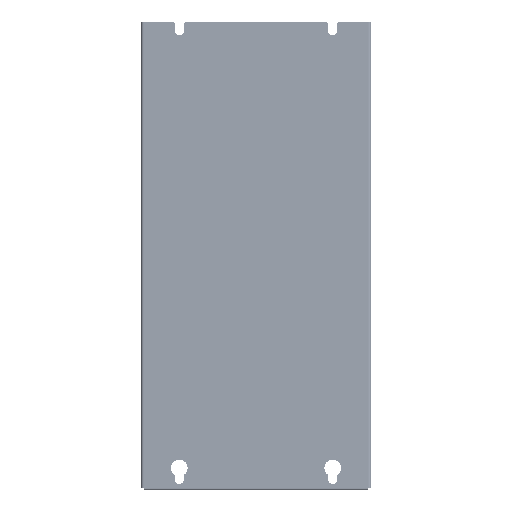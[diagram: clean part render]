
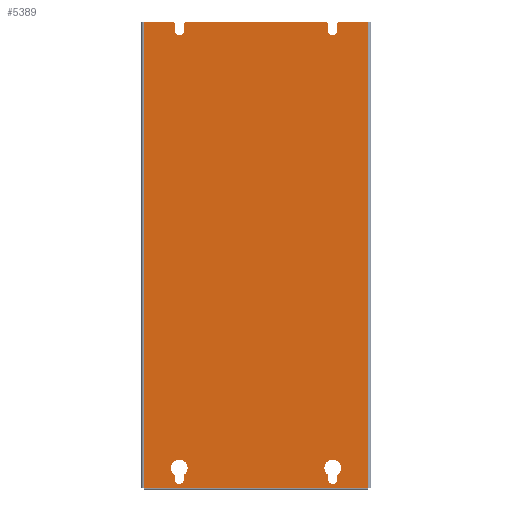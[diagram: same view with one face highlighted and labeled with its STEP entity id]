
A CAD part, front view. The second image highlights one B-rep face of the part: STEP entity #5389.
In plain terms, the highlighted planar face has unit normal (0, -1, 0).
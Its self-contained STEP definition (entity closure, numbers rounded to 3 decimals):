
#5389=ADVANCED_FACE('',(#95814,#95816,#95818),#95820,.T.);
#95814=FACE_BOUND('',#95815,.T.);
#95815=EDGE_LOOP('',(#222816,#222817,#222818,#222819,#222820,#222821,#222822,#222823,
#222824,#222825,#222826,#222827,#222828,#222829,#222830,#222831));
#95816=FACE_BOUND('',#95817,.T.);
#95817=EDGE_LOOP('',(#222832,#222833,#222834,#222835));
#95818=FACE_BOUND('',#95819,.T.);
#95819=EDGE_LOOP('',(#222836,#222837,#222838,#222839));
#95820=PLANE('',#95821);
#95821=AXIS2_PLACEMENT_3D('',#95822,#95823,#95824);
#95822=CARTESIAN_POINT('',(-90.,0.,-182.5));
#95823=DIRECTION('',(0.,-1.,0.));
#95824=DIRECTION('',(1.,0.,0.));
#222816=ORIENTED_EDGE('',*,*,#275597,.F.);
#222817=ORIENTED_EDGE('',*,*,#275598,.F.);
#222818=ORIENTED_EDGE('',*,*,#275599,.T.);
#222819=ORIENTED_EDGE('',*,*,#275385,.T.);
#222820=ORIENTED_EDGE('',*,*,#275600,.F.);
#222821=ORIENTED_EDGE('',*,*,#275601,.T.);
#222822=ORIENTED_EDGE('',*,*,#275602,.T.);
#222823=ORIENTED_EDGE('',*,*,#275603,.T.);
#222824=ORIENTED_EDGE('',*,*,#275604,.F.);
#222825=ORIENTED_EDGE('',*,*,#275605,.T.);
#222826=ORIENTED_EDGE('',*,*,#275606,.F.);
#222827=ORIENTED_EDGE('',*,*,#275607,.T.);
#222828=ORIENTED_EDGE('',*,*,#275608,.T.);
#222829=ORIENTED_EDGE('',*,*,#275609,.T.);
#222830=ORIENTED_EDGE('',*,*,#275610,.F.);
#222831=ORIENTED_EDGE('',*,*,#275611,.T.);
#222832=ORIENTED_EDGE('',*,*,#275612,.T.);
#222833=ORIENTED_EDGE('',*,*,#275613,.F.);
#222834=ORIENTED_EDGE('',*,*,#275614,.T.);
#222835=ORIENTED_EDGE('',*,*,#275596,.F.);
#222836=ORIENTED_EDGE('',*,*,#275615,.F.);
#222837=ORIENTED_EDGE('',*,*,#275616,.T.);
#222838=ORIENTED_EDGE('',*,*,#275617,.F.);
#222839=ORIENTED_EDGE('',*,*,#275618,.T.);
#275385=EDGE_CURVE('',#301497,#301494,#301498,.T.);
#275596=EDGE_CURVE('',#301902,#301900,#301904,.T.);
#275597=EDGE_CURVE('',#301905,#301906,#301907,.T.);
#275598=EDGE_CURVE('',#301908,#301905,#301909,.T.);
#275599=EDGE_CURVE('',#301908,#301497,#301910,.T.);
#275600=EDGE_CURVE('',#301911,#301494,#301912,.T.);
#275601=EDGE_CURVE('',#301911,#301913,#301914,.T.);
#275602=EDGE_CURVE('',#301913,#301915,#301916,.T.);
#275603=EDGE_CURVE('',#301915,#301917,#301918,.T.);
#275604=EDGE_CURVE('',#301919,#301917,#301920,.T.);
#275605=EDGE_CURVE('',#301919,#301921,#301922,.T.);
#275606=EDGE_CURVE('',#301923,#301921,#301924,.T.);
#275607=EDGE_CURVE('',#301923,#301925,#301926,.T.);
#275608=EDGE_CURVE('',#301925,#301927,#301928,.T.);
#275609=EDGE_CURVE('',#301927,#301929,#301930,.T.);
#275610=EDGE_CURVE('',#301931,#301929,#301932,.T.);
#275611=EDGE_CURVE('',#301931,#301906,#301933,.T.);
#275612=EDGE_CURVE('',#301902,#301934,#301935,.T.);
#275613=EDGE_CURVE('',#301936,#301934,#301937,.T.);
#275614=EDGE_CURVE('',#301936,#301900,#301938,.T.);
#275615=EDGE_CURVE('',#301939,#301940,#301941,.T.);
#275616=EDGE_CURVE('',#301939,#301942,#301943,.T.);
#275617=EDGE_CURVE('',#301944,#301942,#301945,.T.);
#275618=EDGE_CURVE('',#301944,#301940,#301946,.T.);
#301494=VERTEX_POINT('',#344502);
#301497=VERTEX_POINT('',#344510);
#301498=LINE('',#344511,#344512);
#301900=VERTEX_POINT('',#345343);
#301902=VERTEX_POINT('',#345347);
#301904=LINE('',#345351,#345352);
#301905=VERTEX_POINT('',#345354);
#301906=VERTEX_POINT('',#345355);
#301907=LINE('',#345356,#345357);
#301908=VERTEX_POINT('',#345359);
#301909=LINE('',#345360,#345361);
#301910=LINE('',#345363,#345364);
#301911=VERTEX_POINT('',#345366);
#301912=LINE('',#345367,#345368);
#301913=VERTEX_POINT('',#345370);
#301914=LINE('',#345371,#345372);
#301915=VERTEX_POINT('',#345374);
#301916=LINE('',#345375,#345376);
#301917=VERTEX_POINT('',#345378);
#301918=CIRCLE('',#345379,3.5);
#301919=VERTEX_POINT('',#345383);
#301920=LINE('',#345384,#345385);
#301921=VERTEX_POINT('',#345387);
#301922=LINE('',#345388,#345389);
#301923=VERTEX_POINT('',#345391);
#301924=LINE('',#345392,#345393);
#301925=VERTEX_POINT('',#345395);
#301926=LINE('',#345396,#345397);
#301927=VERTEX_POINT('',#345399);
#301928=LINE('',#345400,#345401);
#301929=VERTEX_POINT('',#345403);
#301930=CIRCLE('',#345404,3.5);
#301931=VERTEX_POINT('',#345408);
#301932=LINE('',#345409,#345410);
#301933=LINE('',#345412,#345413);
#301934=VERTEX_POINT('',#345415);
#301935=CIRCLE('',#345416,3.5);
#301936=VERTEX_POINT('',#345420);
#301937=LINE('',#345421,#345422);
#301938=CIRCLE('',#345424,6.5);
#301939=VERTEX_POINT('',#345428);
#301940=VERTEX_POINT('',#345429);
#301941=LINE('',#345430,#345431);
#301942=VERTEX_POINT('',#345433);
#301943=CIRCLE('',#345434,6.5);
#301944=VERTEX_POINT('',#345438);
#301945=LINE('',#345439,#345440);
#301946=CIRCLE('',#345442,3.5);
#344502=CARTESIAN_POINT('',(87.8,0.,182.5));
#344510=CARTESIAN_POINT('',(87.8,0.,-182.5));
#344511=CARTESIAN_POINT('',(87.8,0.,-182.5));
#344512=VECTOR('',#344513,1.);
#344513=DIRECTION('',(0.,0.,1.));
#345343=CARTESIAN_POINT('',(63.5,0.,-171.977));
#345347=CARTESIAN_POINT('',(63.5,0.,-175.5));
#345351=CARTESIAN_POINT('',(63.5,0.,-175.5));
#345352=VECTOR('',#345353,1.);
#345353=DIRECTION('',(0.,0.,1.));
#345354=CARTESIAN_POINT('',(-87.8,0.,182.5));
#345355=CARTESIAN_POINT('',(-64.5,0.,182.5));
#345356=CARTESIAN_POINT('',(-87.8,0.,182.5));
#345357=VECTOR('',#345358,1.);
#345358=DIRECTION('',(1.,0.,0.));
#345359=CARTESIAN_POINT('',(-87.8,0.,-182.5));
#345360=CARTESIAN_POINT('',(-87.8,0.,-182.5));
#345361=VECTOR('',#345362,1.);
#345362=DIRECTION('',(0.,0.,1.));
#345363=CARTESIAN_POINT('',(-87.8,0.,-182.5));
#345364=VECTOR('',#345365,1.);
#345365=DIRECTION('',(1.,0.,0.));
#345366=CARTESIAN_POINT('',(64.5,0.,182.5));
#345367=CARTESIAN_POINT('',(64.5,0.,182.5));
#345368=VECTOR('',#345369,1.);
#345369=DIRECTION('',(1.,0.,0.));
#345370=CARTESIAN_POINT('',(63.5,0.,181.5));
#345371=CARTESIAN_POINT('',(64.5,0.,182.5));
#345372=VECTOR('',#345373,1.);
#345373=DIRECTION('',(-0.707,0.,-0.707));
#345374=CARTESIAN_POINT('',(63.5,0.,175.5));
#345375=CARTESIAN_POINT('',(63.5,0.,181.5));
#345376=VECTOR('',#345377,1.);
#345377=DIRECTION('',(0.,0.,-1.));
#345378=CARTESIAN_POINT('',(56.5,0.,175.5));
#345379=AXIS2_PLACEMENT_3D('',#345380,#345381,#345382);
#345380=CARTESIAN_POINT('',(60.,0.,175.5));
#345381=DIRECTION('',(0.,1.,0.));
#345382=DIRECTION('',(1.,0.,0.));
#345383=CARTESIAN_POINT('',(56.5,0.,181.5));
#345384=CARTESIAN_POINT('',(56.5,0.,181.5));
#345385=VECTOR('',#345386,1.);
#345386=DIRECTION('',(0.,0.,-1.));
#345387=CARTESIAN_POINT('',(55.5,0.,182.5));
#345388=CARTESIAN_POINT('',(56.5,0.,181.5));
#345389=VECTOR('',#345390,1.);
#345390=DIRECTION('',(-0.707,0.,0.707));
#345391=CARTESIAN_POINT('',(-55.5,0.,182.5));
#345392=CARTESIAN_POINT('',(-55.5,0.,182.5));
#345393=VECTOR('',#345394,1.);
#345394=DIRECTION('',(1.,0.,0.));
#345395=CARTESIAN_POINT('',(-56.5,0.,181.5));
#345396=CARTESIAN_POINT('',(-55.5,0.,182.5));
#345397=VECTOR('',#345398,1.);
#345398=DIRECTION('',(-0.707,0.,-0.707));
#345399=CARTESIAN_POINT('',(-56.5,0.,175.5));
#345400=CARTESIAN_POINT('',(-56.5,0.,181.5));
#345401=VECTOR('',#345402,1.);
#345402=DIRECTION('',(0.,0.,-1.));
#345403=CARTESIAN_POINT('',(-63.5,0.,175.5));
#345404=AXIS2_PLACEMENT_3D('',#345405,#345406,#345407);
#345405=CARTESIAN_POINT('',(-60.,0.,175.5));
#345406=DIRECTION('',(0.,1.,0.));
#345407=DIRECTION('',(1.,0.,0.));
#345408=CARTESIAN_POINT('',(-63.5,0.,181.5));
#345409=CARTESIAN_POINT('',(-63.5,0.,181.5));
#345410=VECTOR('',#345411,1.);
#345411=DIRECTION('',(0.,0.,-1.));
#345412=CARTESIAN_POINT('',(-63.5,0.,181.5));
#345413=VECTOR('',#345414,1.);
#345414=DIRECTION('',(-0.707,0.,0.707));
#345415=CARTESIAN_POINT('',(56.5,0.,-175.5));
#345416=AXIS2_PLACEMENT_3D('',#345417,#345418,#345419);
#345417=CARTESIAN_POINT('',(60.,0.,-175.5));
#345418=DIRECTION('',(0.,1.,0.));
#345419=DIRECTION('',(1.,0.,0.));
#345420=CARTESIAN_POINT('',(56.5,0.,-171.977));
#345421=CARTESIAN_POINT('',(56.5,0.,-171.977));
#345422=VECTOR('',#345423,1.);
#345423=DIRECTION('',(0.,0.,-1.));
#345424=AXIS2_PLACEMENT_3D('',#345425,#345426,#345427);
#345425=CARTESIAN_POINT('',(60.,0.,-166.5));
#345426=DIRECTION('',(0.,1.,0.));
#345427=DIRECTION('',(-0.538,0.,-0.843));
#345428=CARTESIAN_POINT('',(-63.5,0.,-171.977));
#345429=CARTESIAN_POINT('',(-63.5,0.,-175.5));
#345430=CARTESIAN_POINT('',(-63.5,0.,-171.977));
#345431=VECTOR('',#345432,1.);
#345432=DIRECTION('',(0.,0.,-1.));
#345433=CARTESIAN_POINT('',(-56.5,0.,-171.977));
#345434=AXIS2_PLACEMENT_3D('',#345435,#345436,#345437);
#345435=CARTESIAN_POINT('',(-60.,0.,-166.5));
#345436=DIRECTION('',(0.,1.,0.));
#345437=DIRECTION('',(-0.538,0.,-0.843));
#345438=CARTESIAN_POINT('',(-56.5,0.,-175.5));
#345439=CARTESIAN_POINT('',(-56.5,0.,-175.5));
#345440=VECTOR('',#345441,1.);
#345441=DIRECTION('',(0.,0.,1.));
#345442=AXIS2_PLACEMENT_3D('',#345443,#345444,#345445);
#345443=CARTESIAN_POINT('',(-60.,0.,-175.5));
#345444=DIRECTION('',(0.,1.,0.));
#345445=DIRECTION('',(1.,0.,0.));
